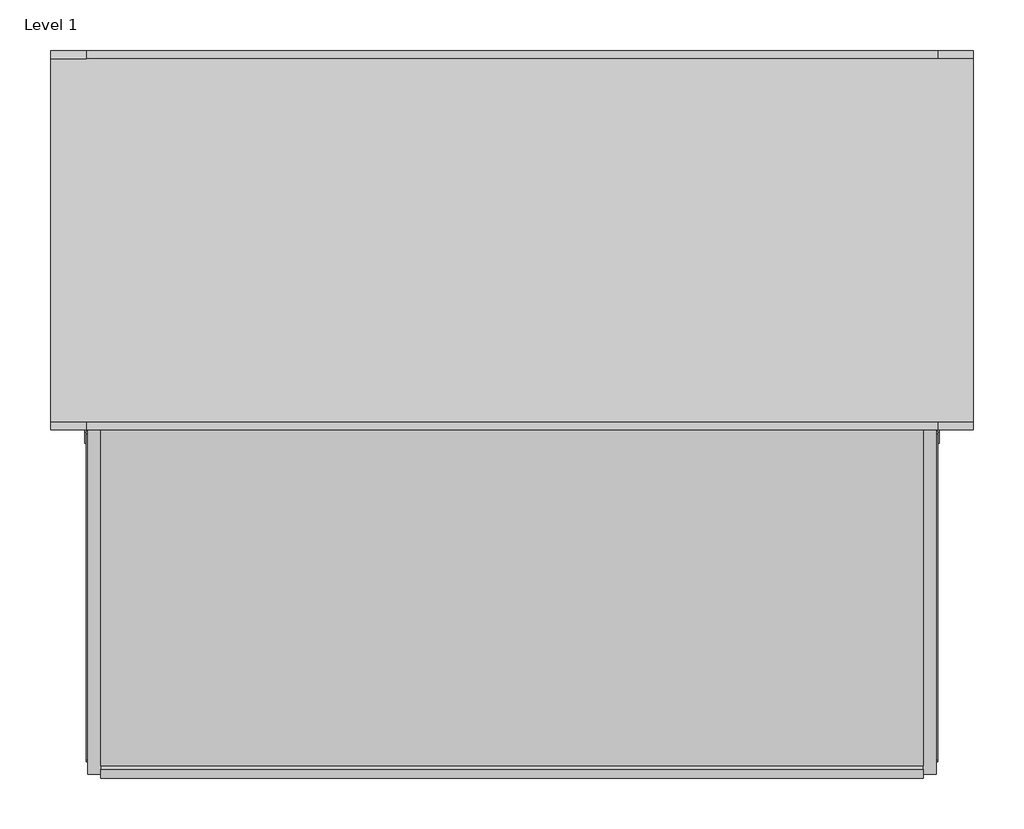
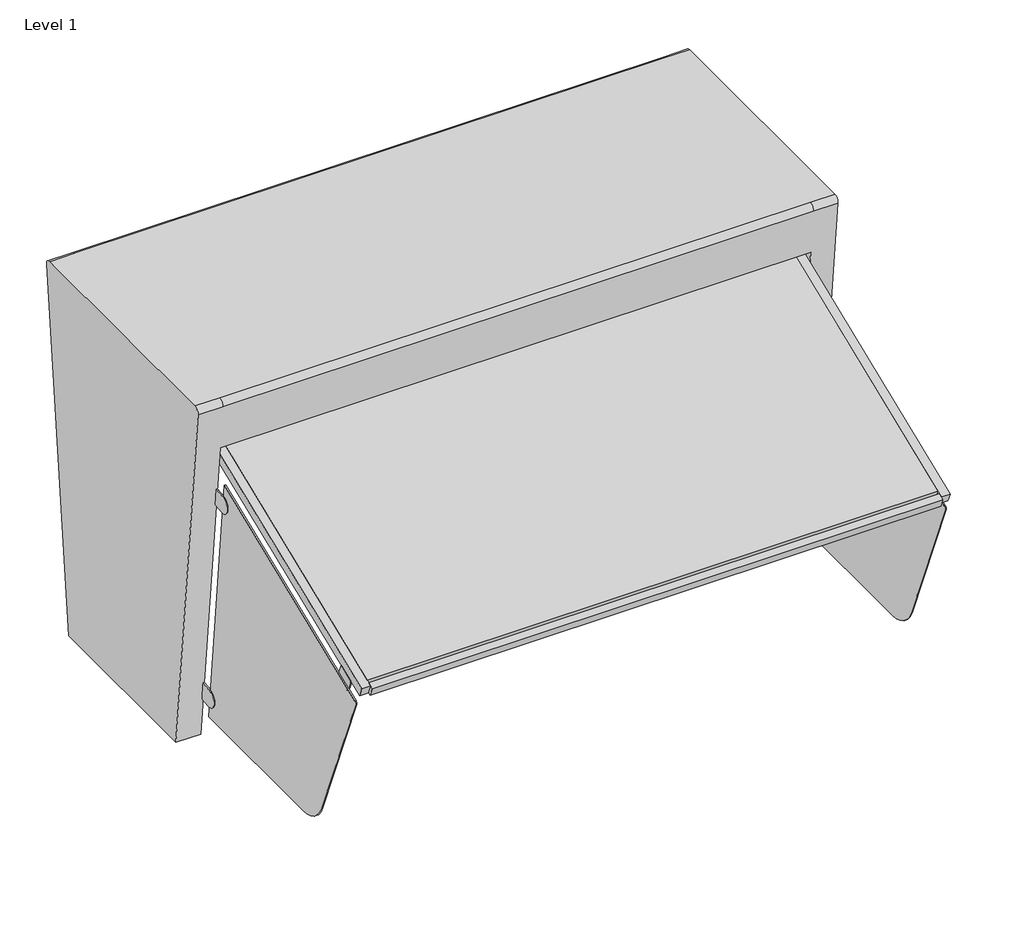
# One storey: 1 proxy.
"""IFC4 building model written with IfcOpenShell, lengths in millimetres."""

from ifc_helpers import new_model, si_unit, origin, place, context, project, spatial, transform, mapped, element, save
from components import qf_atlasmetal_bc_cat_qf_atlasmetal_bc_cat_d30facc0

model = new_model("IFC4")

# Units and contexts
model_context = context("Model", 3, world=origin())
ifc_project = project(units=[si_unit("LENGTHUNIT", "METRE", prefix="MILLI")], contexts=[model_context])

# Site, building, storey
site = spatial("IfcSite", under=ifc_project)
building = spatial("IfcBuilding", under=site)
storey = spatial("IfcBuildingStorey", under=building, Name="Level 1", Elevation=0.0)

# Proxy
placement = place(None, origin())
qf_atlasmetal_bc_cat_qf_atlasmetal_bc_cat_shape = qf_atlasmetal_bc_cat_qf_atlasmetal_bc_cat_d30facc0(model_context)
element("IfcBuildingElementProxy", 1, Name="QF_AtlasMetal_BC_cat : QF_AtlasMetal_BC_cat", ObjectType="QF_AtlasMetal_BC_cat : QF_AtlasMetal_BC_cat", at=placement, inside=storey, context=model_context, shape_type="MappedRepresentation", body=[
    mapped(qf_atlasmetal_bc_cat_qf_atlasmetal_bc_cat_shape, transform((11292.2517719, 5042.6848298, 0.0), x_axis=(1.0, 0.0, 0.0), y_axis=(0.0, 1.0, 0.0), z_axis=(0.0, 0.0, 1.0))),
])

save(model, "model.ifc")
